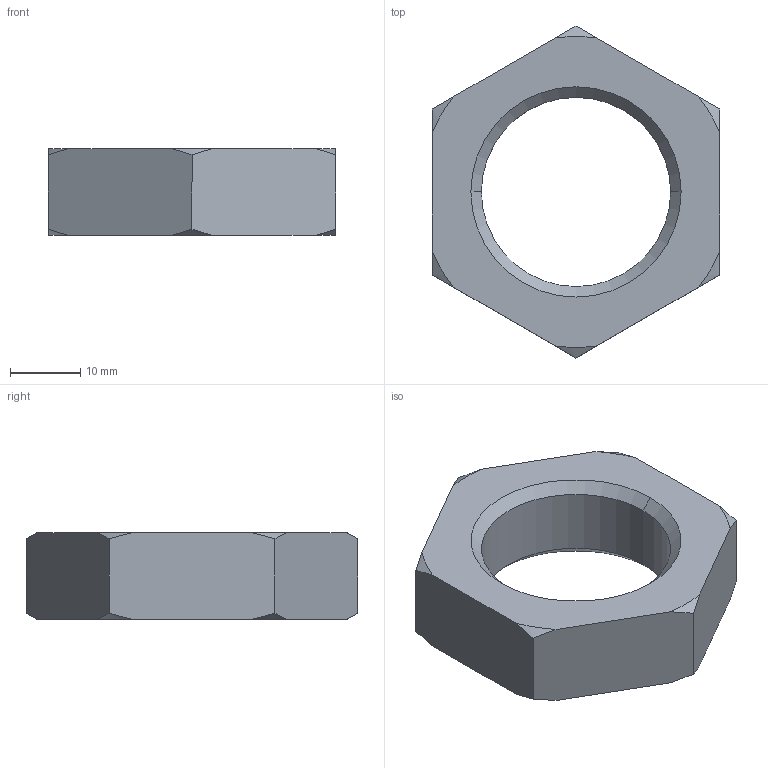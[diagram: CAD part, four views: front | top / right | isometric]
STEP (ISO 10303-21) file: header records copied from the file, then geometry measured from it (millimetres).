
FILE_DESCRIPTION (( 'STEP AP203' ), '1' );
FILE_NAME ('P0306.270-150-A2.step', '2018-12-15T14:55:09', ( '' ), ( '' ), 'SwSTEP 2.0', 'SolidWorks 2017', '' );
FILE_SCHEMA (( 'CONFIG_CONTROL_DESIGN' ));
Length unit declared in the file: millimetre
Products named in the file (1): P0306.270-150-A2
Bounding box: 41 x 47.34 x 12.4 mm (x, y, z)
Volume: 10739.9 mm3; surface area: 4410.4 mm2
Topology: 1 solids, 1 shells, 26 faces, 68 edges, 44 vertices
Faces by surface type: cone 16, plane 8, cylinder 2
Entity records: 921 total; most frequent: CARTESIAN_POINT 227, ORIENTED_EDGE 136, DIRECTION 118, EDGE_CURVE 68, AXIS2_PLACEMENT_3D 47, VERTEX_POINT 44, EDGE_LOOP 28, ADVANCED_FACE 26
